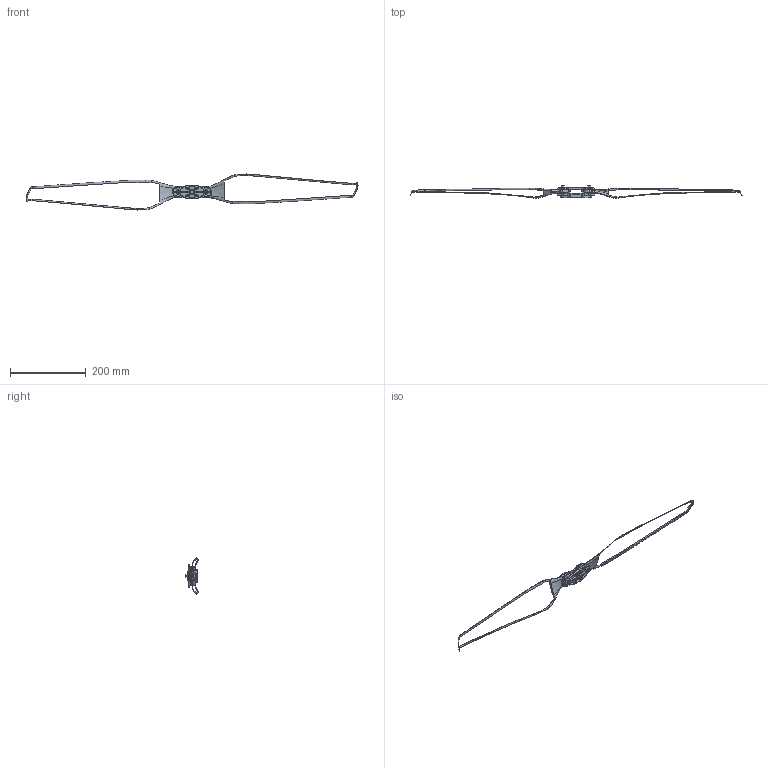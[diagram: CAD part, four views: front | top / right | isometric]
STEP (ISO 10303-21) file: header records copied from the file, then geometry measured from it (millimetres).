
FILE_DESCRIPTION (( 'STEP AP214' ), '1' );
FILE_NAME ('MF3424-懫諾.STEP', '2025-02-11T03:55:20', ( '' ), ( '' ), 'SwSTEP 2.0', 'SolidWorks 2022', '' );
FILE_SCHEMA (( 'AUTOMOTIVE_DESIGN' ));
Length unit declared in the file: millimetre
Products named in the file (6): MF3424-CCW; MF3424-镂空; BJJ02060433-A10桨夹下板-34-A; M4防松螺母; M4x25 弹垫螺丝; BJJ02060432-A10桨夹上板-A
Assembly tree (8 placements, depth 2):
  MF3424-镂空
    BJJ02060433-A10桨夹下板-34-A
    MF3424-CCW  x2
    BJJ02060432-A10桨夹上板-A
    M4x25 弹垫螺丝  x2
    M4防松螺母  x2
Bounding box: 874.34 x 32.56 x 95.01 mm (x, y, z)
Volume: 68971.2 mm3; surface area: 53044.5 mm2
Topology: 10 solids, 10 shells, 1544 faces, 4023 edges, 2556 vertices
Faces by surface type: cylinder 485, bspline 474, plane 383, cone 122, torus 80
Entity records: 79578 total; most frequent: CARTESIAN_POINT 54673, ORIENTED_EDGE 5558, DIRECTION 4579, EDGE_CURVE 2779, VERTEX_POINT 1759, AXIS2_PLACEMENT_3D 1634, LINE 1311, VECTOR 1311
